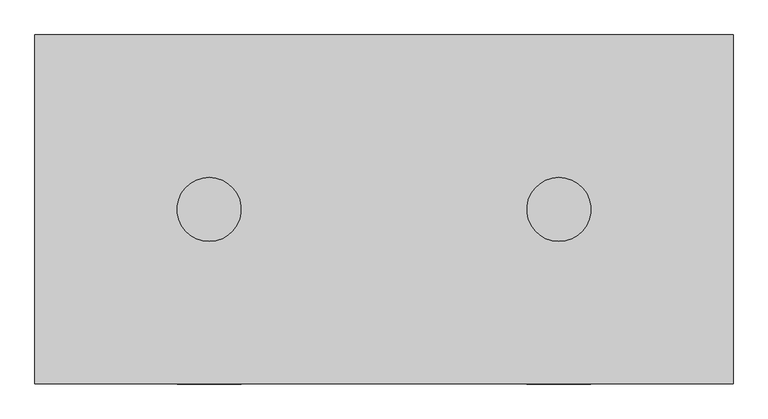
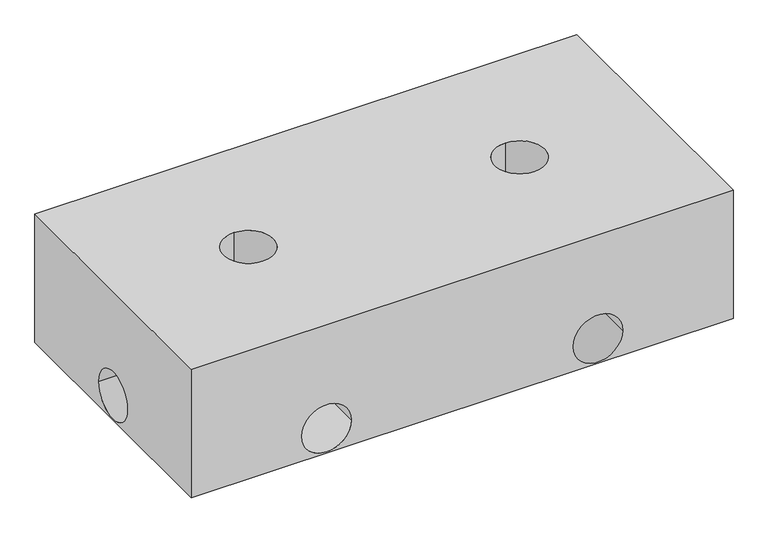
"""IFC4 building model written with IfcOpenShell, lengths in millimetres: valve geometry, Pipelife - Stormbox E - Skrzynka rozsączająca : Skrzynka rozsączająca."""

from ifc_helpers import new_model, si_unit, frame, origin, place, context, project, spatial, polyline, circle_curve, source, transform, mapped, element, save
from ifc_brep_helpers import plane_surface, revolved_surface, advanced_brep


def valve_d295aecb(model_context):
    return source(origin(), model_context, "Body", "AdvancedBrep", [
        advanced_brep(
        [(-300.5, 55.0, 201.0), (-300.5, -55.0, 201.0), (-300.5, 55.0, 301.0), (-300.5, -55.0, 301.0), (600.0, 300.0, 301.0), (-600.0, 300.0, 301.0), (-600.0, -300.0, 301.0), (600.0, -300.0, 301.0), (300.5, -55.0, 301.0), (300.5, 55.0, 301.0), (600.0, 300.0, 0.0), (600.0, -300.0, 0.0), (-600.0, -300.0, 0.0), (-600.0, 300.0, 0.0), (355.5, 300.0, 58.0), (245.5, 300.0, 58.0), (-245.5, 300.0, 58.0), (-355.5, 300.0, 58.0), (-600.0, 55.0, 58.0), (-600.0, -55.0, 58.0), (-355.5, -300.0, 58.0), (-245.5, -300.0, 58.0), (245.5, -300.0, 58.0), (355.5, -300.0, 58.0), (600.0, -55.0, 58.0), (600.0, 55.0, 58.0), (300.5, 55.0, 201.0), (300.5, -55.0, 201.0), (-245.5, -100.0, 58.0), (-355.5, -100.0, 58.0), (245.5, -100.0, 58.0), (355.5, -100.0, 58.0), (400.0, -55.0, 58.0), (400.0, 55.0, 58.0), (245.5, 100.0, 58.0), (355.5, 100.0, 58.0), (-355.5, 100.0, 58.0), (-245.5, 100.0, 58.0), (-400.0, -55.0, 58.0), (-400.0, 55.0, 58.0)],
        [
            (0, 1, circle_curve(frame((-300.5, 0.0, 201.0), z_axis=(0.0, 0.0, 1.0), x_axis=(0.0, -1.0, 0.0)), 55.0)),
            (1, 0, circle_curve(frame((-300.5, 0.0, 201.0), z_axis=(0.0, 0.0, 1.0), x_axis=(0.0, -1.0, 0.0)), 55.0)),
            (0, 2),
            (2, 3, circle_curve(frame((-300.5, 0.0, 301.0), z_axis=(0.0, 0.0, 1.0), x_axis=(0.0, -1.0, 0.0)), 55.0)),
            (3, 1),
            (3, 2, circle_curve(frame((-300.5, 0.0, 301.0), z_axis=(0.0, 0.0, 1.0), x_axis=(0.0, -1.0, 0.0)), 55.0)),
            (4, 5),
            (5, 6),
            (6, 7),
            (7, 4),
            (8, 9, circle_curve(frame((300.5, 0.0, 301.0), z_axis=(0.0, 0.0, -1.0), x_axis=(0.0, -1.0, 0.0)), 55.0)),
            (9, 8, circle_curve(frame((300.5, 0.0, 301.0), z_axis=(0.0, 0.0, -1.0), x_axis=(0.0, -1.0, 0.0)), 55.0)),
            (10, 11),
            (11, 12),
            (12, 13),
            (13, 10),
            (4, 10),
            (13, 5),
            (14, 15, circle_curve(frame((300.5, 300.0, 58.0), z_axis=(0.0, -1.0, 0.0), x_axis=(1.0, 0.0, 0.0)), 55.0)),
            (15, 14, circle_curve(frame((300.5, 300.0, 58.0), z_axis=(0.0, -1.0, 0.0), x_axis=(1.0, 0.0, 0.0)), 55.0)),
            (16, 17, circle_curve(frame((-300.5, 300.0, 58.0), z_axis=(0.0, -1.0, 0.0), x_axis=(1.0, 0.0, 0.0)), 55.0)),
            (17, 16, circle_curve(frame((-300.5, 300.0, 58.0), z_axis=(0.0, -1.0, 0.0), x_axis=(1.0, 0.0, 0.0)), 55.0)),
            (12, 6),
            (18, 19, circle_curve(frame((-600.0, 0.0, 58.0), z_axis=(1.0, 0.0, 0.0), x_axis=(0.0, 1.0, 0.0)), 55.0)),
            (19, 18, circle_curve(frame((-600.0, 0.0, 58.0), z_axis=(1.0, 0.0, 0.0), x_axis=(0.0, 1.0, 0.0)), 55.0)),
            (11, 7),
            (20, 21, circle_curve(frame((-300.5, -300.0, 58.0), z_axis=(0.0, 1.0, 0.0), x_axis=(-1.0, 0.0, 0.0)), 55.0)),
            (21, 20, circle_curve(frame((-300.5, -300.0, 58.0), z_axis=(0.0, 1.0, 0.0), x_axis=(-1.0, 0.0, 0.0)), 55.0)),
            (22, 23, circle_curve(frame((300.5, -300.0, 58.0), z_axis=(0.0, 1.0, 0.0), x_axis=(1.0, 0.0, 0.0)), 55.0)),
            (23, 22, circle_curve(frame((300.5, -300.0, 58.0), z_axis=(0.0, 1.0, 0.0), x_axis=(1.0, 0.0, 0.0)), 55.0)),
            (24, 25, circle_curve(frame((600.0, 0.0, 58.0), z_axis=(-1.0, 0.0, 0.0), x_axis=(0.0, 1.0, 0.0)), 55.0)),
            (25, 24, circle_curve(frame((600.0, 0.0, 58.0), z_axis=(-1.0, 0.0, 0.0), x_axis=(0.0, 1.0, 0.0)), 55.0)),
            (26, 27, circle_curve(frame((300.5, 0.0, 201.0), z_axis=(0.0, 0.0, 1.0), x_axis=(0.0, -1.0, 0.0)), 55.0)),
            (27, 26, circle_curve(frame((300.5, 0.0, 201.0), z_axis=(0.0, 0.0, 1.0), x_axis=(0.0, -1.0, 0.0)), 55.0)),
            (26, 9),
            (8, 27),
            (28, 29, circle_curve(frame((-300.5, -100.0, 58.0), z_axis=(0.0, -1.0, 0.0), x_axis=(-1.0, 0.0, 0.0)), 55.0)),
            (29, 28, circle_curve(frame((-300.5, -100.0, 58.0), z_axis=(0.0, -1.0, 0.0), x_axis=(-1.0, 0.0, 0.0)), 55.0)),
            (28, 21),
            (20, 29),
            (30, 31, circle_curve(frame((300.5, -100.0, 58.0), z_axis=(0.0, -1.0, 0.0), x_axis=(1.0, 0.0, 0.0)), 55.0)),
            (31, 30, circle_curve(frame((300.5, -100.0, 58.0), z_axis=(0.0, -1.0, 0.0), x_axis=(1.0, 0.0, 0.0)), 55.0)),
            (31, 23),
            (22, 30),
            (32, 33, circle_curve(frame((400.0, 0.0, 58.0), z_axis=(1.0, 0.0, 0.0), x_axis=(0.0, 1.0, 0.0)), 55.0)),
            (33, 32, circle_curve(frame((400.0, 0.0, 58.0), z_axis=(1.0, 0.0, 0.0), x_axis=(0.0, 1.0, 0.0)), 55.0)),
            (33, 25),
            (24, 32),
            (34, 35, circle_curve(frame((300.5, 100.0, 58.0), z_axis=(0.0, 1.0, 0.0), x_axis=(1.0, 0.0, 0.0)), 55.0)),
            (35, 34, circle_curve(frame((300.5, 100.0, 58.0), z_axis=(0.0, 1.0, 0.0), x_axis=(1.0, 0.0, 0.0)), 55.0)),
            (34, 15),
            (14, 35),
            (36, 37, circle_curve(frame((-300.5, 100.0, 58.0), z_axis=(0.0, 1.0, 0.0), x_axis=(1.0, 0.0, 0.0)), 55.0)),
            (37, 36, circle_curve(frame((-300.5, 100.0, 58.0), z_axis=(0.0, 1.0, 0.0), x_axis=(1.0, 0.0, 0.0)), 55.0)),
            (36, 17),
            (16, 37),
            (38, 39, circle_curve(frame((-400.0, 0.0, 58.0), z_axis=(-1.0, 0.0, 0.0), x_axis=(0.0, 1.0, 0.0)), 55.0)),
            (39, 38, circle_curve(frame((-400.0, 0.0, 58.0), z_axis=(-1.0, 0.0, 0.0), x_axis=(0.0, 1.0, 0.0)), 55.0)),
            (38, 19),
            (18, 39),
        ],
        [
            plane_surface(frame((-300.5, 0.0, 201.0), z_axis=(0.0, 0.0, 1.0), x_axis=(0.0, -1.0, 0.0))),
            revolved_surface(polyline([(-300.5, -55.0, 301.0), (-300.5, -55.0, 201.0)]), (-300.5, 0.0, 306.0), (0.0, 0.0, 1.0)),
            plane_surface(frame((-600.0, 300.0, 301.0), z_axis=(0.0, 0.0, 1.0), x_axis=(-1.0, 0.0, 0.0))),
            plane_surface(frame((-600.0, 300.0, 0.0), z_axis=(0.0, 0.0, -1.0), x_axis=(1.0, 0.0, 0.0))),
            plane_surface(frame((600.0, 300.0, 301.0), z_axis=(0.0, 1.0, 0.0), x_axis=(0.0, 0.0, -1.0))),
            plane_surface(frame((-600.0, 300.0, 301.0), z_axis=(-1.0, 0.0, 0.0), x_axis=(0.0, 0.0, -1.0))),
            plane_surface(frame((-600.0, -300.0, 301.0), z_axis=(0.0, -1.0, 0.0), x_axis=(0.0, 0.0, -1.0))),
            plane_surface(frame((600.0, -300.0, 301.0), z_axis=(1.0, 0.0, 0.0), x_axis=(0.0, 0.0, -1.0))),
            plane_surface(frame((300.5, 0.0, 201.0), z_axis=(0.0, 0.0, 1.0), x_axis=(0.0, -1.0, 0.0))),
            revolved_surface(polyline([(300.5, -55.0, 301.0), (300.5, -55.0, 201.0)]), (300.5, 0.0, 306.0), (0.0, 0.0, 1.0)),
            plane_surface(frame((-300.5, -100.0, 58.0), z_axis=(0.0, -1.0, 0.0), x_axis=(0.0, 0.0, 1.0))),
            revolved_surface(polyline([(-355.5, -300.0, 58.0), (-355.5, -100.0, 58.0)]), (-300.5, -305.0, 58.0), (0.0, -1.0, 0.0)),
            plane_surface(frame((300.5, -100.0, 58.0), z_axis=(0.0, -1.0, 0.0), x_axis=(0.0, 0.0, 1.0))),
            revolved_surface(polyline([(355.5, -100.0, 58.0), (355.5, -300.0, 58.0)]), (300.5, -100.0, 58.0), (0.0, 1.0, 0.0)),
            plane_surface(frame((400.0, 0.0, 58.0), z_axis=(1.0, 0.0, 0.0), x_axis=(0.0, 0.0, 1.0))),
            revolved_surface(polyline([(400.0, 55.0, 58.0), (600.0, 55.0, 58.0)]), (400.0, 0.0, 58.0), (-1.0, 0.0, 0.0)),
            plane_surface(frame((300.5, 100.0, 58.0), z_axis=(0.0, 1.0, 0.0), x_axis=(0.0, 0.0, 1.0))),
            revolved_surface(polyline([(355.5, 300.0, 58.0), (355.5, 100.0, 58.0)]), (300.5, 305.0, 58.0), (0.0, 1.0, 0.0)),
            plane_surface(frame((-300.5, 100.0, 58.0), z_axis=(0.0, 1.0, 0.0), x_axis=(0.0, 0.0, 1.0))),
            revolved_surface(polyline([(-245.5, 300.0, 58.0), (-245.5, 100.0, 58.0)]), (-300.5, 305.0, 58.0), (0.0, 1.0, 0.0)),
            plane_surface(frame((-400.0, 0.0, 58.0), z_axis=(-1.0, 0.0, 0.0), x_axis=(0.0, 0.0, 1.0))),
            revolved_surface(polyline([(-600.0, 55.0, 58.0), (-400.0, 55.0, 58.0)]), (-605.0, 0.0, 58.0), (-1.0, 0.0, 0.0)),
        ],
        [
            (0, [[1, 2]]),
            (1, [[-1, 3, 4, 5]]),
            (1, [[-2, -5, 6, -3]]),
            (2, [[7, 8, 9, 10], [-4, -6], [11, 12]]),
            (3, [[13, 14, 15, 16]]),
            (4, [[-7, 17, -16, 18], [19, 20], [21, 22]]),
            (5, [[-8, -18, -15, 23], [24, 25]]),
            (6, [[-9, -23, -14, 26], [27, 28], [29, 30]]),
            (7, [[-10, -26, -13, -17], [31, 32]]),
            (8, [[33, 34]]),
            (9, [[-33, 35, -11, 36]]),
            (9, [[-34, -36, -12, -35]]),
            (10, [[37, 38]]),
            (11, [[-37, 39, -27, 40]]),
            (11, [[-38, -40, -28, -39]]),
            (12, [[41, 42]]),
            (13, [[-42, 43, -29, 44]]),
            (13, [[-41, -44, -30, -43]]),
            (14, [[45, 46]]),
            (15, [[-46, 47, -31, 48]]),
            (15, [[-45, -48, -32, -47]]),
            (16, [[49, 50]]),
            (17, [[-49, 51, -19, 52]]),
            (17, [[-50, -52, -20, -51]]),
            (18, [[53, 54]]),
            (19, [[-53, 55, -21, 56]]),
            (19, [[-54, -56, -22, -55]]),
            (20, [[57, 58]]),
            (21, [[-57, 59, -24, 60]]),
            (21, [[-58, -60, -25, -59]]),
        ],
    ),
    ])


if __name__ == "__main__":
    model = new_model("IFC4")
    model_context = context("Model", 3, world=origin())
    ifc_project = project(units=[si_unit("LENGTHUNIT", "METRE", prefix="MILLI")], contexts=[model_context])
    site = spatial("IfcSite", under=ifc_project)
    building = spatial("IfcBuilding", under=site)
    placement = place(None, origin())
    valve_shape = valve_d295aecb(model_context)
    element("IfcValve", 1, ObjectType="Pipelife - Stormbox E - Skrzynka rozsączająca : Skrzynka rozsączająca", at=placement, inside=building, context=model_context, shape_type="MappedRepresentation", body=[
        mapped(valve_shape, transform((0.0, 0.0, 0.0), x_axis=(1.0, 0.0, 0.0), y_axis=(0.0, 1.0, 0.0), z_axis=(0.0, 0.0, 1.0))),
    ])
    save(model, "model.ifc")
